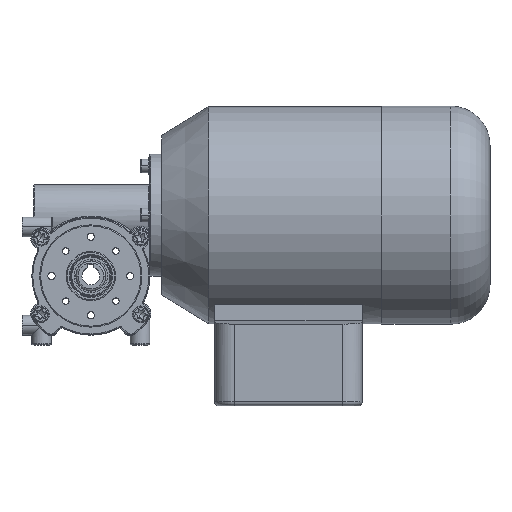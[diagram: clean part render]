
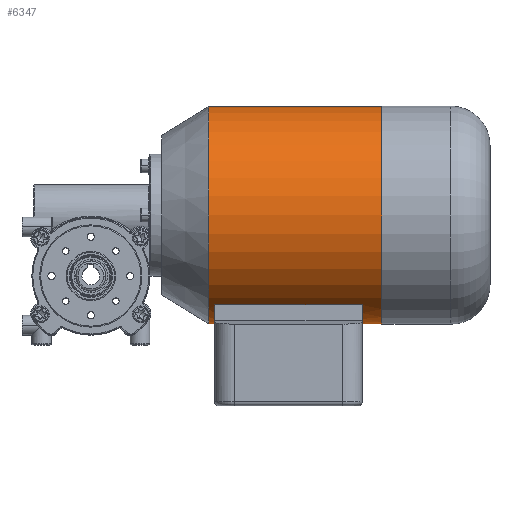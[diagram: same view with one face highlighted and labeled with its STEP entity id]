
A CAD part, top view. The second image highlights one B-rep face of the part: STEP entity #6347.
In plain terms, the highlighted cylindrical face has radius 55.25 mm (diameter 110.5 mm), a partial arc.
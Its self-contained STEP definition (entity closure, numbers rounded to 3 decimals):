
#439 = CARTESIAN_POINT ( 'NONE',  ( 114.834, 92.057, 0. ) ) ;
#441 = CIRCLE ( 'NONE', #13022, 55.25 ) ;
#859 = DIRECTION ( 'NONE',  ( 1., 0., 0. ) ) ;
#1381 = EDGE_LOOP ( 'NONE', ( #10263, #17896, #4293, #18993, #27583, #25074, #15057, #16148 ) ) ;
#1518 = DIRECTION ( 'NONE',  ( 1., 0., 0. ) ) ;
#1623 = VECTOR ( 'NONE', #22376, 1000. ) ;
#2406 = EDGE_CURVE ( 'NONE', #20105, #24888, #13776, .T. ) ;
#2643 = AXIS2_PLACEMENT_3D ( 'NONE', #20223, #20360, #11674 ) ;
#2684 = LINE ( 'NONE', #4787, #21096 ) ;
#2714 = CIRCLE ( 'NONE', #2643, 55.25 ) ;
#3209 = AXIS2_PLACEMENT_3D ( 'NONE', #26735, #5390, #18295 ) ;
#4040 = DIRECTION ( 'NONE',  ( 0., 1., 0. ) ) ;
#4185 = CARTESIAN_POINT ( 'NONE',  ( -25.166, 36.807, 0. ) ) ;
#4293 = ORIENTED_EDGE ( 'NONE', *, *, #2406, .F. ) ;
#4787 = CARTESIAN_POINT ( 'NONE',  ( 114.834, -18.443, 0. ) ) ;
#5390 = DIRECTION ( 'NONE',  ( 1., 0., 0. ) ) ;
#5789 = AXIS2_PLACEMENT_3D ( 'NONE', #10262, #12798, #27409 ) ;
#6347 = ADVANCED_FACE ( 'NONE', ( #14095 ), #22598, .T. ) ;
#7023 = DIRECTION ( 'NONE',  ( 1., 0., 0. ) ) ;
#7063 = EDGE_CURVE ( 'NONE', #10713, #13949, #16203, .T. ) ;
#7719 = CARTESIAN_POINT ( 'NONE',  ( -25.166, -18.443, 0. ) ) ;
#8433 = CARTESIAN_POINT ( 'NONE',  ( -25.166, -8.926, 31. ) ) ;
#8485 = CARTESIAN_POINT ( 'NONE',  ( -28.166, -18.443, 0. ) ) ;
#8708 = DIRECTION ( 'NONE',  ( -1., 0., 0. ) ) ;
#8832 = DIRECTION ( 'NONE',  ( 0., -1., 0. ) ) ;
#8945 = LINE ( 'NONE', #17518, #25477 ) ;
#8990 = EDGE_CURVE ( 'NONE', #16598, #17003, #2714, .T. ) ;
#10262 = CARTESIAN_POINT ( 'NONE',  ( 114.834, 36.807, 0. ) ) ;
#10263 = ORIENTED_EDGE ( 'NONE', *, *, #7063, .T. ) ;
#10376 = EDGE_CURVE ( 'NONE', #13949, #24888, #22097, .T. ) ;
#10465 = CARTESIAN_POINT ( 'NONE',  ( 59.834, -18.443, 0. ) ) ;
#10713 = VERTEX_POINT ( 'NONE', #25317 ) ;
#11674 = DIRECTION ( 'NONE',  ( 0., 1., 0. ) ) ;
#12189 = EDGE_CURVE ( 'NONE', #26925, #20105, #8945, .T. ) ;
#12798 = DIRECTION ( 'NONE',  ( 1., 0., 0. ) ) ;
#13022 = AXIS2_PLACEMENT_3D ( 'NONE', #26259, #8708, #8832 ) ;
#13776 = CIRCLE ( 'NONE', #26746, 55.25 ) ;
#13949 = VERTEX_POINT ( 'NONE', #8485 ) ;
#14095 = FACE_OUTER_BOUND ( 'NONE', #1381, .T. ) ;
#15057 = ORIENTED_EDGE ( 'NONE', *, *, #8990, .F. ) ;
#15349 = VECTOR ( 'NONE', #859, 1000. ) ;
#16148 = ORIENTED_EDGE ( 'NONE', *, *, #27793, .F. ) ;
#16203 = CIRCLE ( 'NONE', #3209, 55.25 ) ;
#16598 = VERTEX_POINT ( 'NONE', #18421 ) ;
#16871 = CARTESIAN_POINT ( 'NONE',  ( 49.834, -18.443, 0. ) ) ;
#17003 = VERTEX_POINT ( 'NONE', #10465 ) ;
#17518 = CARTESIAN_POINT ( 'NONE',  ( 102.806, -8.926, 31. ) ) ;
#17896 = ORIENTED_EDGE ( 'NONE', *, *, #10376, .T. ) ;
#18295 = DIRECTION ( 'NONE',  ( 0., 1., 0. ) ) ;
#18421 = CARTESIAN_POINT ( 'NONE',  ( 59.834, 92.057, 0. ) ) ;
#18993 = ORIENTED_EDGE ( 'NONE', *, *, #12189, .F. ) ;
#20095 = LINE ( 'NONE', #439, #15349 ) ;
#20105 = VERTEX_POINT ( 'NONE', #8433 ) ;
#20223 = CARTESIAN_POINT ( 'NONE',  ( 59.834, 36.807, 0. ) ) ;
#20306 = CARTESIAN_POINT ( 'NONE',  ( 114.834, -18.443, 0. ) ) ;
#20360 = DIRECTION ( 'NONE',  ( 1., 0., 0. ) ) ;
#20389 = CARTESIAN_POINT ( 'NONE',  ( 49.834, -8.926, 31. ) ) ;
#21096 = VECTOR ( 'NONE', #7023, 1000. ) ;
#22097 = LINE ( 'NONE', #20306, #1623 ) ;
#22376 = DIRECTION ( 'NONE',  ( 1., 0., 0. ) ) ;
#22598 = CYLINDRICAL_SURFACE ( 'NONE', #5789, 55.25 ) ;
#23961 = DIRECTION ( 'NONE',  ( -1., 0., 0. ) ) ;
#24888 = VERTEX_POINT ( 'NONE', #7719 ) ;
#25074 = ORIENTED_EDGE ( 'NONE', *, *, #26813, .T. ) ;
#25317 = CARTESIAN_POINT ( 'NONE',  ( -28.166, 92.057, 0. ) ) ;
#25477 = VECTOR ( 'NONE', #23961, 1000. ) ;
#25603 = VERTEX_POINT ( 'NONE', #16871 ) ;
#26259 = CARTESIAN_POINT ( 'NONE',  ( 49.834, 36.807, 0. ) ) ;
#26735 = CARTESIAN_POINT ( 'NONE',  ( -28.166, 36.807, 0. ) ) ;
#26746 = AXIS2_PLACEMENT_3D ( 'NONE', #4185, #1518, #4040 ) ;
#26813 = EDGE_CURVE ( 'NONE', #25603, #17003, #2684, .T. ) ;
#26843 = EDGE_CURVE ( 'NONE', #25603, #26925, #441, .T. ) ;
#26925 = VERTEX_POINT ( 'NONE', #20389 ) ;
#27409 = DIRECTION ( 'NONE',  ( 0., 1., 0. ) ) ;
#27583 = ORIENTED_EDGE ( 'NONE', *, *, #26843, .F. ) ;
#27793 = EDGE_CURVE ( 'NONE', #10713, #16598, #20095, .T. ) ;
